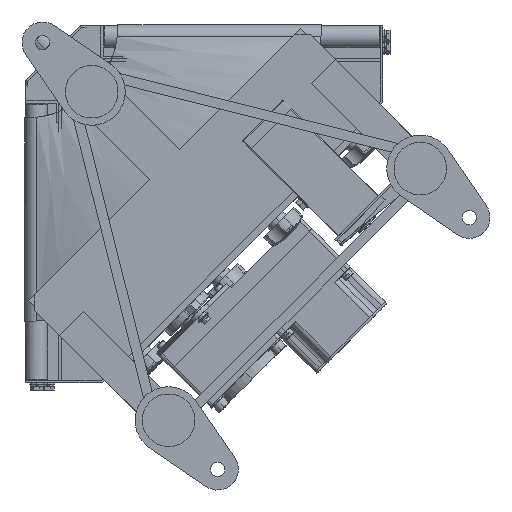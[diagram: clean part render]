
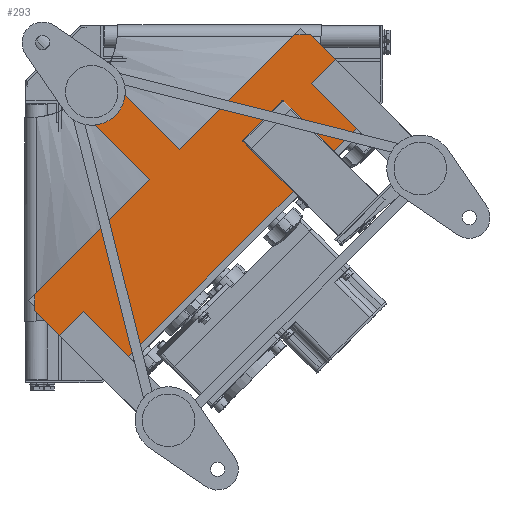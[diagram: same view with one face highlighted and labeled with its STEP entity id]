
A CAD part, front view. The second image highlights one B-rep face of the part: STEP entity #293.
In plain terms, the highlighted planar face has unit normal (0, -1, 0).
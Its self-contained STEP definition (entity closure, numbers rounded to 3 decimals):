
#170 = VECTOR ( 'NONE', #46774, 1000. ) ;
#293 = ADVANCED_FACE ( 'NONE', ( #13929 ), #35075, .T. ) ;
#457 = ORIENTED_EDGE ( 'NONE', *, *, #26929, .F. ) ;
#685 = VERTEX_POINT ( 'NONE', #29601 ) ;
#751 = CARTESIAN_POINT ( 'NONE',  ( 12.728, -167.5, -39.598 ) ) ;
#1001 = CARTESIAN_POINT ( 'NONE',  ( 8.132, -167.5, -245.012 ) ) ;
#1177 = DIRECTION ( 'NONE',  ( -0.707, 0., -0.707 ) ) ;
#1276 = DIRECTION ( 'NONE',  ( 0.707, 0., 0.707 ) ) ;
#1465 = ORIENTED_EDGE ( 'NONE', *, *, #14476, .T. ) ;
#1864 = VERTEX_POINT ( 'NONE', #7668 ) ;
#2485 = EDGE_CURVE ( 'NONE', #1864, #25098, #5592, .T. ) ;
#3011 = DIRECTION ( 'NONE',  ( -0.707, 0., -0.707 ) ) ;
#3155 = ORIENTED_EDGE ( 'NONE', *, *, #46164, .F. ) ;
#3405 = EDGE_CURVE ( 'NONE', #10352, #12945, #30778, .T. ) ;
#5387 = DIRECTION ( 'NONE',  ( 0., 0., -1. ) ) ;
#5592 = LINE ( 'NONE', #1001, #41736 ) ;
#6550 = VECTOR ( 'NONE', #25303, 1000. ) ;
#6657 = CARTESIAN_POINT ( 'NONE',  ( 259.155, -167.5, -8.132 ) ) ;
#7160 = CARTESIAN_POINT ( 'NONE',  ( 12.728, -167.5, -39.598 ) ) ;
#7391 = LINE ( 'NONE', #751, #170 ) ;
#7668 = CARTESIAN_POINT ( 'NONE',  ( 113.137, -167.5, -140.007 ) ) ;
#7713 = ORIENTED_EDGE ( 'NONE', *, *, #36726, .T. ) ;
#7860 = ORIENTED_EDGE ( 'NONE', *, *, #44094, .T. ) ;
#8327 = ORIENTED_EDGE ( 'NONE', *, *, #37493, .T. ) ;
#8624 = LINE ( 'NONE', #44976, #11609 ) ;
#10352 = VERTEX_POINT ( 'NONE', #20118 ) ;
#11310 = EDGE_CURVE ( 'NONE', #21858, #36323, #7391, .T. ) ;
#11609 = VECTOR ( 'NONE', #40750, 1000. ) ;
#11950 = CARTESIAN_POINT ( 'NONE',  ( 0., -167.5, 0. ) ) ;
#12415 = ORIENTED_EDGE ( 'NONE', *, *, #3405, .T. ) ;
#12945 = VERTEX_POINT ( 'NONE', #23493 ) ;
#13929 = FACE_OUTER_BOUND ( 'NONE', #19765, .T. ) ;
#14476 = EDGE_CURVE ( 'NONE', #30284, #685, #24122, .T. ) ;
#14828 = ORIENTED_EDGE ( 'NONE', *, *, #25833, .T. ) ;
#15400 = CARTESIAN_POINT ( 'NONE',  ( 245.012, -167.5, -8.132 ) ) ;
#16196 = DIRECTION ( 'NONE',  ( 0., 0., -1. ) ) ;
#16519 = LINE ( 'NONE', #44306, #20687 ) ;
#16703 = CARTESIAN_POINT ( 'NONE',  ( 71.771, -167.5, -322.794 ) ) ;
#16766 = VECTOR ( 'NONE', #1276, 1000. ) ;
#19765 = EDGE_LOOP ( 'NONE', ( #3155, #43229, #7860, #8327, #14828, #12415, #7713, #1465, #457, #48914 ) ) ;
#19794 = CARTESIAN_POINT ( 'NONE',  ( 8.132, -167.5, -259.155 ) ) ;
#20118 = CARTESIAN_POINT ( 'NONE',  ( 322.794, -167.5, -71.771 ) ) ;
#20256 = DIRECTION ( 'NONE',  ( 0., -1., 0. ) ) ;
#20687 = VECTOR ( 'NONE', #5387, 1000. ) ;
#21759 = VECTOR ( 'NONE', #33609, 1000. ) ;
#21858 = VERTEX_POINT ( 'NONE', #7160 ) ;
#23493 = CARTESIAN_POINT ( 'NONE',  ( 259.155, -167.5, -8.132 ) ) ;
#24122 = LINE ( 'NONE', #30679, #45780 ) ;
#25098 = VERTEX_POINT ( 'NONE', #30567 ) ;
#25303 = DIRECTION ( 'NONE',  ( 0.707, 0., -0.707 ) ) ;
#25833 = EDGE_CURVE ( 'NONE', #48235, #10352, #43230, .T. ) ;
#26929 = EDGE_CURVE ( 'NONE', #36323, #685, #29307, .T. ) ;
#27147 = CARTESIAN_POINT ( 'NONE',  ( 245.012, -167.5, -8.132 ) ) ;
#27837 = DIRECTION ( 'NONE',  ( 0.707, 0., -0.707 ) ) ;
#29023 = VERTEX_POINT ( 'NONE', #19794 ) ;
#29307 = LINE ( 'NONE', #37798, #29902 ) ;
#29601 = CARTESIAN_POINT ( 'NONE',  ( 140.007, -167.5, -113.137 ) ) ;
#29902 = VECTOR ( 'NONE', #27837, 1000. ) ;
#30284 = VERTEX_POINT ( 'NONE', #27147 ) ;
#30567 = CARTESIAN_POINT ( 'NONE',  ( 8.132, -167.5, -245.012 ) ) ;
#30679 = CARTESIAN_POINT ( 'NONE',  ( 8.132, -167.5, -245.012 ) ) ;
#30778 = LINE ( 'NONE', #6657, #21759 ) ;
#33609 = DIRECTION ( 'NONE',  ( -0.707, 0., 0.707 ) ) ;
#35075 = PLANE ( 'NONE',  #38290 ) ;
#35208 = CARTESIAN_POINT ( 'NONE',  ( 39.598, -167.5, -12.728 ) ) ;
#36028 = CARTESIAN_POINT ( 'NONE',  ( 71.771, -167.5, -322.794 ) ) ;
#36323 = VERTEX_POINT ( 'NONE', #35208 ) ;
#36726 = EDGE_CURVE ( 'NONE', #12945, #30284, #47041, .T. ) ;
#37493 = EDGE_CURVE ( 'NONE', #29023, #48235, #43349, .T. ) ;
#37798 = CARTESIAN_POINT ( 'NONE',  ( 39.598, -167.5, -12.728 ) ) ;
#38290 = AXIS2_PLACEMENT_3D ( 'NONE', #11950, #20256, #16196 ) ;
#40750 = DIRECTION ( 'NONE',  ( -0.707, 0., 0.707 ) ) ;
#41736 = VECTOR ( 'NONE', #1177, 1000. ) ;
#43229 = ORIENTED_EDGE ( 'NONE', *, *, #2485, .T. ) ;
#43230 = LINE ( 'NONE', #36028, #16766 ) ;
#43349 = LINE ( 'NONE', #48890, #6550 ) ;
#43399 = VECTOR ( 'NONE', #45745, 1000. ) ;
#44094 = EDGE_CURVE ( 'NONE', #25098, #29023, #16519, .T. ) ;
#44306 = CARTESIAN_POINT ( 'NONE',  ( 8.132, -167.5, -259.155 ) ) ;
#44976 = CARTESIAN_POINT ( 'NONE',  ( 12.728, -167.5, -39.598 ) ) ;
#45745 = DIRECTION ( 'NONE',  ( -1., 0., 0. ) ) ;
#45780 = VECTOR ( 'NONE', #3011, 1000. ) ;
#46164 = EDGE_CURVE ( 'NONE', #1864, #21858, #8624, .T. ) ;
#46774 = DIRECTION ( 'NONE',  ( 0.707, 0., 0.707 ) ) ;
#47041 = LINE ( 'NONE', #15400, #43399 ) ;
#48235 = VERTEX_POINT ( 'NONE', #16703 ) ;
#48890 = CARTESIAN_POINT ( 'NONE',  ( 8.132, -167.5, -259.155 ) ) ;
#48914 = ORIENTED_EDGE ( 'NONE', *, *, #11310, .F. ) ;
